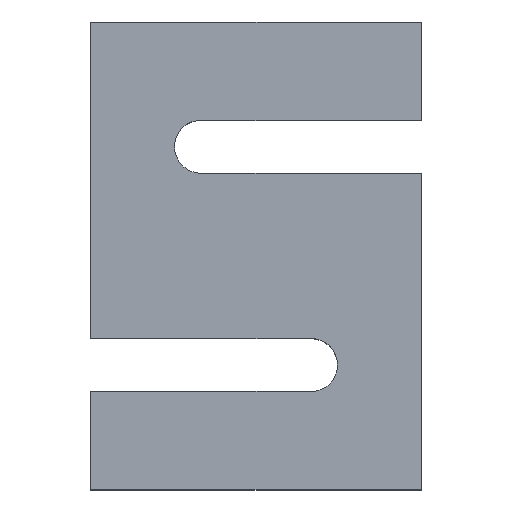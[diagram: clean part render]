
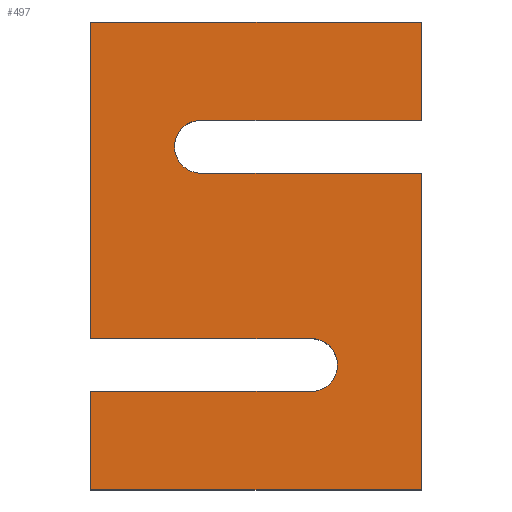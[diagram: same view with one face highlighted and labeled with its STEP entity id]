
A CAD part, top view. The second image highlights one B-rep face of the part: STEP entity #497.
In plain terms, the highlighted planar face has unit normal (0, 0, 1).
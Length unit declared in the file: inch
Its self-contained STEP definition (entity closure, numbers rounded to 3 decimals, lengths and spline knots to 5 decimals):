
#1 = ORIENTED_EDGE ( 'NONE', *, *, #409, .T. ) ;
#5 = VECTOR ( 'NONE', #221, 39.37008 ) ;
#6 = DIRECTION ( 'NONE',  ( 1., 0., 0. ) ) ;
#8 = ORIENTED_EDGE ( 'NONE', *, *, #103, .T. ) ;
#10 = CARTESIAN_POINT ( 'NONE',  ( -1.5, -2.125, 0.5 ) ) ;
#12 = ORIENTED_EDGE ( 'NONE', *, *, #588, .T. ) ;
#13 = LINE ( 'NONE', #144, #5 ) ;
#16 = VECTOR ( 'NONE', #382, 39.37008 ) ;
#18 = CARTESIAN_POINT ( 'NONE',  ( 1.5, 2.125, 0.5 ) ) ;
#25 = CARTESIAN_POINT ( 'NONE',  ( -1.5, -1.2313, 0.5 ) ) ;
#33 = CARTESIAN_POINT ( 'NONE',  ( 1.5, -2.125, 0.5 ) ) ;
#83 = VERTEX_POINT ( 'NONE', #542 ) ;
#84 = CARTESIAN_POINT ( 'NONE',  ( -1.5, -0.75098, 0.5 ) ) ;
#85 = AXIS2_PLACEMENT_3D ( 'NONE', #408, #674, #201 ) ;
#89 = EDGE_CURVE ( 'NONE', #550, #203, #564, .T. ) ;
#92 = CARTESIAN_POINT ( 'NONE',  ( -1.5, -1.2313, 0.5 ) ) ;
#94 = CARTESIAN_POINT ( 'NONE',  ( -0.5, 0.75098, 0.5 ) ) ;
#101 = VERTEX_POINT ( 'NONE', #181 ) ;
#103 = EDGE_CURVE ( 'NONE', #340, #83, #332, .T. ) ;
#104 = VECTOR ( 'NONE', #252, 39.37008 ) ;
#110 = ORIENTED_EDGE ( 'NONE', *, *, #175, .T. ) ;
#113 = VECTOR ( 'NONE', #468, 39.37008 ) ;
#127 = CARTESIAN_POINT ( 'NONE',  ( -1.5, 2.125, 0.5 ) ) ;
#135 = EDGE_CURVE ( 'NONE', #492, #293, #195, .T. ) ;
#143 = LINE ( 'NONE', #510, #113 ) ;
#144 = CARTESIAN_POINT ( 'NONE',  ( 1.5, 0.75098, 0.5 ) ) ;
#155 = CARTESIAN_POINT ( 'NONE',  ( -1.5, -2.125, 0.5 ) ) ;
#167 = ORIENTED_EDGE ( 'NONE', *, *, #373, .T. ) ;
#175 = EDGE_CURVE ( 'NONE', #83, #550, #300, .T. ) ;
#179 = CIRCLE ( 'NONE', #85, 0.24016 ) ;
#181 = CARTESIAN_POINT ( 'NONE',  ( -0.74016, 0.99114, 0.5 ) ) ;
#185 = VERTEX_POINT ( 'NONE', #598 ) ;
#188 = EDGE_CURVE ( 'NONE', #452, #260, #288, .T. ) ;
#195 = LINE ( 'NONE', #10, #16 ) ;
#201 = DIRECTION ( 'NONE',  ( 1., 0., 0. ) ) ;
#203 = VERTEX_POINT ( 'NONE', #25 ) ;
#212 = CARTESIAN_POINT ( 'NONE',  ( 1.5, 1.2313, 0.5 ) ) ;
#221 = DIRECTION ( 'NONE',  ( -1., 0., 0. ) ) ;
#231 = DIRECTION ( 'NONE',  ( -1., 0., 0. ) ) ;
#237 = DIRECTION ( 'NONE',  ( 0., 0., -1. ) ) ;
#240 = EDGE_CURVE ( 'NONE', #293, #562, #444, .T. ) ;
#241 = DIRECTION ( 'NONE',  ( 1., 0., 0. ) ) ;
#248 = VERTEX_POINT ( 'NONE', #336 ) ;
#249 = ORIENTED_EDGE ( 'NONE', *, *, #251, .T. ) ;
#251 = EDGE_CURVE ( 'NONE', #101, #185, #179, .T. ) ;
#252 = DIRECTION ( 'NONE',  ( 0., -1., 0. ) ) ;
#253 = CARTESIAN_POINT ( 'NONE',  ( 0.5, -1.2313, 0.5 ) ) ;
#260 = VERTEX_POINT ( 'NONE', #18 ) ;
#265 = LINE ( 'NONE', #92, #104 ) ;
#274 = VECTOR ( 'NONE', #400, 39.37008 ) ;
#278 = AXIS2_PLACEMENT_3D ( 'NONE', #688, #636, #682 ) ;
#288 = LINE ( 'NONE', #451, #509 ) ;
#293 = VERTEX_POINT ( 'NONE', #33 ) ;
#300 = CIRCLE ( 'NONE', #629, 0.24016 ) ;
#310 = PLANE ( 'NONE',  #278 ) ;
#314 = EDGE_CURVE ( 'NONE', #248, #340, #143, .T. ) ;
#327 = CARTESIAN_POINT ( 'NONE',  ( 0.5, -1.2313, 0.5 ) ) ;
#332 = LINE ( 'NONE', #646, #447 ) ;
#336 = CARTESIAN_POINT ( 'NONE',  ( -1.5, 2.125, 0.5 ) ) ;
#338 = ORIENTED_EDGE ( 'NONE', *, *, #359, .T. ) ;
#340 = VERTEX_POINT ( 'NONE', #84 ) ;
#343 = DIRECTION ( 'NONE',  ( 0., 1., 0. ) ) ;
#352 = CARTESIAN_POINT ( 'NONE',  ( 1.5, 0.75098, 0.5 ) ) ;
#359 = EDGE_CURVE ( 'NONE', #203, #492, #265, .T. ) ;
#368 = DIRECTION ( 'NONE',  ( 0., 0., -1. ) ) ;
#370 = ORIENTED_EDGE ( 'NONE', *, *, #188, .T. ) ;
#373 = EDGE_CURVE ( 'NONE', #562, #631, #13, .T. ) ;
#381 = LINE ( 'NONE', #127, #274 ) ;
#382 = DIRECTION ( 'NONE',  ( 1., 0., 0. ) ) ;
#400 = DIRECTION ( 'NONE',  ( -1., 0., 0. ) ) ;
#408 = CARTESIAN_POINT ( 'NONE',  ( -0.5, 0.99114, 0.5 ) ) ;
#409 = EDGE_CURVE ( 'NONE', #185, #452, #493, .T. ) ;
#412 = EDGE_LOOP ( 'NONE', ( #665, #167, #677, #249, #1, #370, #12, #491, #8, #110, #441, #338, #467 ) ) ;
#441 = ORIENTED_EDGE ( 'NONE', *, *, #89, .T. ) ;
#444 = LINE ( 'NONE', #352, #582 ) ;
#447 = VECTOR ( 'NONE', #6, 39.37008 ) ;
#451 = CARTESIAN_POINT ( 'NONE',  ( 1.5, 2.125, 0.5 ) ) ;
#452 = VERTEX_POINT ( 'NONE', #212 ) ;
#454 = EDGE_CURVE ( 'NONE', #631, #101, #602, .T. ) ;
#467 = ORIENTED_EDGE ( 'NONE', *, *, #135, .T. ) ;
#468 = DIRECTION ( 'NONE',  ( 0., -1., 0. ) ) ;
#472 = CARTESIAN_POINT ( 'NONE',  ( 1.5, 1.2313, 0.5 ) ) ;
#491 = ORIENTED_EDGE ( 'NONE', *, *, #314, .T. ) ;
#492 = VERTEX_POINT ( 'NONE', #155 ) ;
#493 = LINE ( 'NONE', #472, #556 ) ;
#497 = ADVANCED_FACE ( 'NONE', ( #676 ), #310, .T. ) ;
#508 = CARTESIAN_POINT ( 'NONE',  ( 1.5, 0.75098, 0.5 ) ) ;
#509 = VECTOR ( 'NONE', #343, 39.37008 ) ;
#510 = CARTESIAN_POINT ( 'NONE',  ( -1.5, 2.125, 0.5 ) ) ;
#529 = DIRECTION ( 'NONE',  ( 1., 0., 0. ) ) ;
#542 = CARTESIAN_POINT ( 'NONE',  ( 0.5, -0.75098, 0.5 ) ) ;
#544 = AXIS2_PLACEMENT_3D ( 'NONE', #569, #368, #685 ) ;
#549 = CARTESIAN_POINT ( 'NONE',  ( 0.5, -0.99114, 0.5 ) ) ;
#550 = VERTEX_POINT ( 'NONE', #253 ) ;
#556 = VECTOR ( 'NONE', #529, 39.37008 ) ;
#562 = VERTEX_POINT ( 'NONE', #508 ) ;
#564 = LINE ( 'NONE', #327, #667 ) ;
#569 = CARTESIAN_POINT ( 'NONE',  ( -0.5, 0.99114, 0.5 ) ) ;
#582 = VECTOR ( 'NONE', #614, 39.37008 ) ;
#588 = EDGE_CURVE ( 'NONE', #260, #248, #381, .T. ) ;
#598 = CARTESIAN_POINT ( 'NONE',  ( -0.5, 1.2313, 0.5 ) ) ;
#602 = CIRCLE ( 'NONE', #544, 0.24016 ) ;
#614 = DIRECTION ( 'NONE',  ( 0., 1., 0. ) ) ;
#629 = AXIS2_PLACEMENT_3D ( 'NONE', #549, #237, #241 ) ;
#631 = VERTEX_POINT ( 'NONE', #94 ) ;
#636 = DIRECTION ( 'NONE',  ( 0., 0., 1. ) ) ;
#646 = CARTESIAN_POINT ( 'NONE',  ( -1.5, -0.75098, 0.5 ) ) ;
#665 = ORIENTED_EDGE ( 'NONE', *, *, #240, .T. ) ;
#667 = VECTOR ( 'NONE', #231, 39.37008 ) ;
#674 = DIRECTION ( 'NONE',  ( 0., 0., -1. ) ) ;
#676 = FACE_OUTER_BOUND ( 'NONE', #412, .T. ) ;
#677 = ORIENTED_EDGE ( 'NONE', *, *, #454, .T. ) ;
#682 = DIRECTION ( 'NONE',  ( 1., 0., 0. ) ) ;
#685 = DIRECTION ( 'NONE',  ( 1., 0., 0. ) ) ;
#688 = CARTESIAN_POINT ( 'NONE',  ( 0.5, -0.99114, 0.5 ) ) ;
